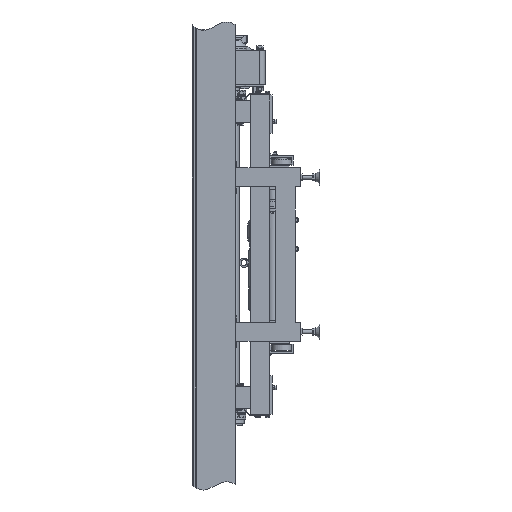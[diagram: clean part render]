
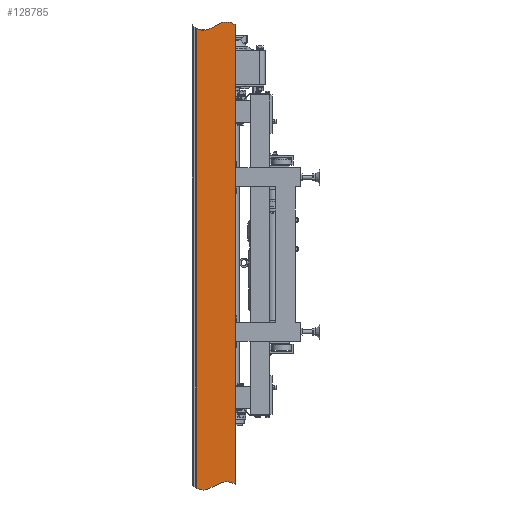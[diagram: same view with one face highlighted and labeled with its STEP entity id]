
A CAD part, left-side view. The second image highlights one B-rep face of the part: STEP entity #128785.
In plain terms, the highlighted planar face has unit normal (-1, 0, 0).
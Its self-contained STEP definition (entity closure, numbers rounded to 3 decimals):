
#214 = VERTEX_POINT ( 'NONE', #24369 ) ;
#764 = CARTESIAN_POINT ( 'NONE',  ( -497.5, -108.572, 939.768 ) ) ;
#8100 = CARTESIAN_POINT ( 'NONE',  ( -497.5, -18.925, -914.971 ) ) ;
#8508 = LINE ( 'NONE', #129748, #92831 ) ;
#11198 = CARTESIAN_POINT ( 'NONE',  ( -497.5, -108.572, -860.232 ) ) ;
#11845 = CARTESIAN_POINT ( 'NONE',  ( -497.5, -18.925, 885.029 ) ) ;
#12584 = EDGE_CURVE ( 'NONE', #62030, #72969, #8508, .T. ) ;
#19439 = DIRECTION ( 'NONE',  ( 0., 0., -1. ) ) ;
#19524 = CARTESIAN_POINT ( 'NONE',  ( -497.5, -18.925, -914.971 ) ) ;
#19626 = B_SPLINE_CURVE_WITH_KNOTS ( 'NONE', 3,
 ( #20676, #764, #65034, #11845 ),
 .UNSPECIFIED., .F., .F.,
 ( 4, 4 ),
 ( 0., 0.899 ),
 .UNSPECIFIED. ) ;
#20676 = CARTESIAN_POINT ( 'NONE',  ( -497.5, -168.925, 900. ) ) ;
#23876 = EDGE_CURVE ( 'NONE', #72969, #214, #44252, .T. ) ;
#24369 = CARTESIAN_POINT ( 'NONE',  ( -497.5, -168.925, -900. ) ) ;
#24514 = DIRECTION ( 'NONE',  ( 0., 0., -1. ) ) ;
#42026 = AXIS2_PLACEMENT_3D ( 'NONE', #116565, #117920, #96203 ) ;
#44252 = B_SPLINE_CURVE_WITH_KNOTS ( 'NONE', 3,
 ( #19524, #53779, #11198, #73163 ),
 .UNSPECIFIED., .F., .F.,
 ( 4, 4 ),
 ( 0.101, 1. ),
 .UNSPECIFIED. ) ;
#53779 = CARTESIAN_POINT ( 'NONE',  ( -497.5, -72.854, -945.154 ) ) ;
#60329 = ORIENTED_EDGE ( 'NONE', *, *, #12584, .T. ) ;
#62030 = VERTEX_POINT ( 'NONE', #123223 ) ;
#62783 = VECTOR ( 'NONE', #19439, 1000. ) ;
#64834 = ORIENTED_EDGE ( 'NONE', *, *, #68477, .T. ) ;
#65034 = CARTESIAN_POINT ( 'NONE',  ( -497.5, -72.854, 854.846 ) ) ;
#68477 = EDGE_CURVE ( 'NONE', #72742, #62030, #19626, .T. ) ;
#71855 = FACE_OUTER_BOUND ( 'NONE', #116537, .T. ) ;
#72742 = VERTEX_POINT ( 'NONE', #89932 ) ;
#72969 = VERTEX_POINT ( 'NONE', #8100 ) ;
#73136 = PLANE ( 'NONE',  #42026 ) ;
#73163 = CARTESIAN_POINT ( 'NONE',  ( -497.5, -168.925, -900. ) ) ;
#78851 = ORIENTED_EDGE ( 'NONE', *, *, #23876, .T. ) ;
#80435 = CARTESIAN_POINT ( 'NONE',  ( -497.5, -168.925, 925. ) ) ;
#86763 = EDGE_CURVE ( 'NONE', #72742, #214, #128792, .T. ) ;
#89932 = CARTESIAN_POINT ( 'NONE',  ( -497.5, -168.925, 900. ) ) ;
#92831 = VECTOR ( 'NONE', #24514, 1000. ) ;
#96203 = DIRECTION ( 'NONE',  ( 0., 1., 0. ) ) ;
#112351 = ORIENTED_EDGE ( 'NONE', *, *, #86763, .F. ) ;
#116537 = EDGE_LOOP ( 'NONE', ( #78851, #112351, #64834, #60329 ) ) ;
#116565 = CARTESIAN_POINT ( 'NONE',  ( -497.5, -168.925, 925. ) ) ;
#117920 = DIRECTION ( 'NONE',  ( 1., 0., 0. ) ) ;
#123223 = CARTESIAN_POINT ( 'NONE',  ( -497.5, -18.925, 885.029 ) ) ;
#128785 = ADVANCED_FACE ( 'NONE', ( #71855 ), #73136, .F. ) ;
#128792 = LINE ( 'NONE', #80435, #62783 ) ;
#129748 = CARTESIAN_POINT ( 'NONE',  ( -497.5, -18.925, 925. ) ) ;
